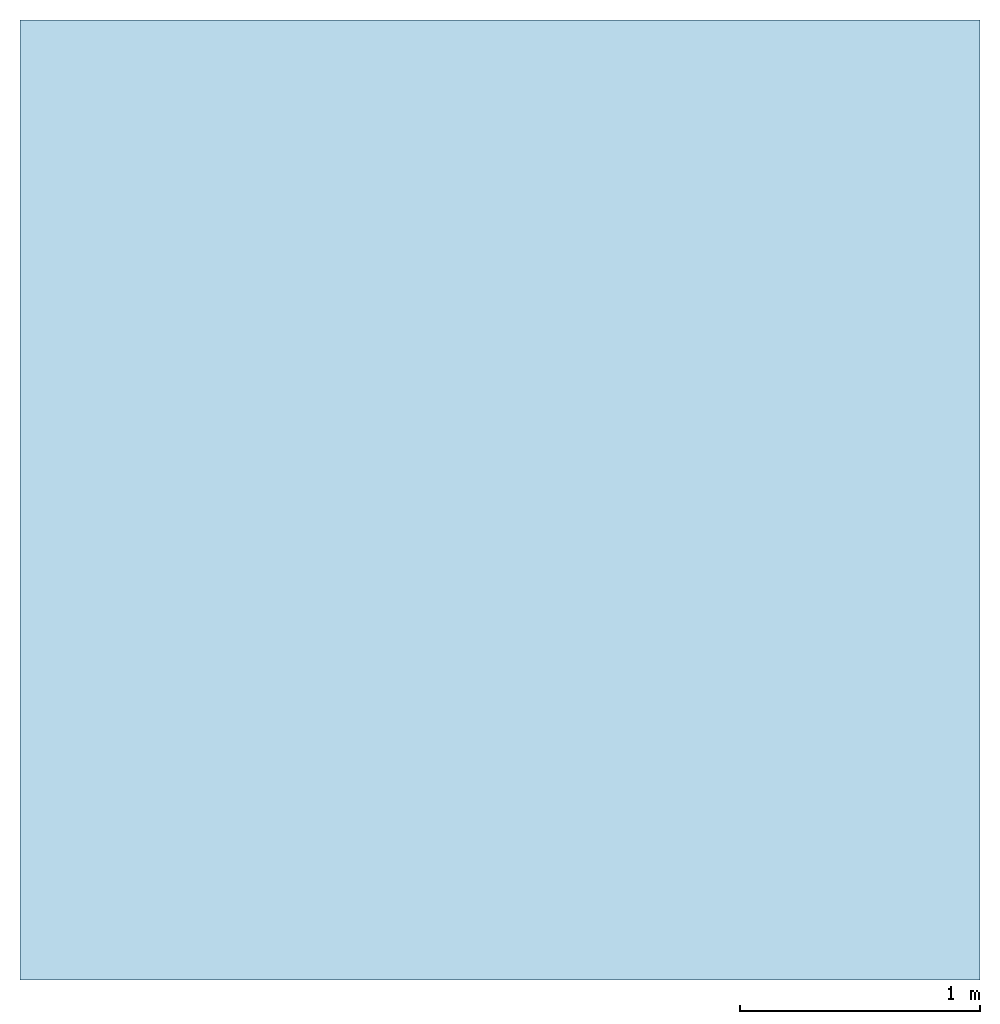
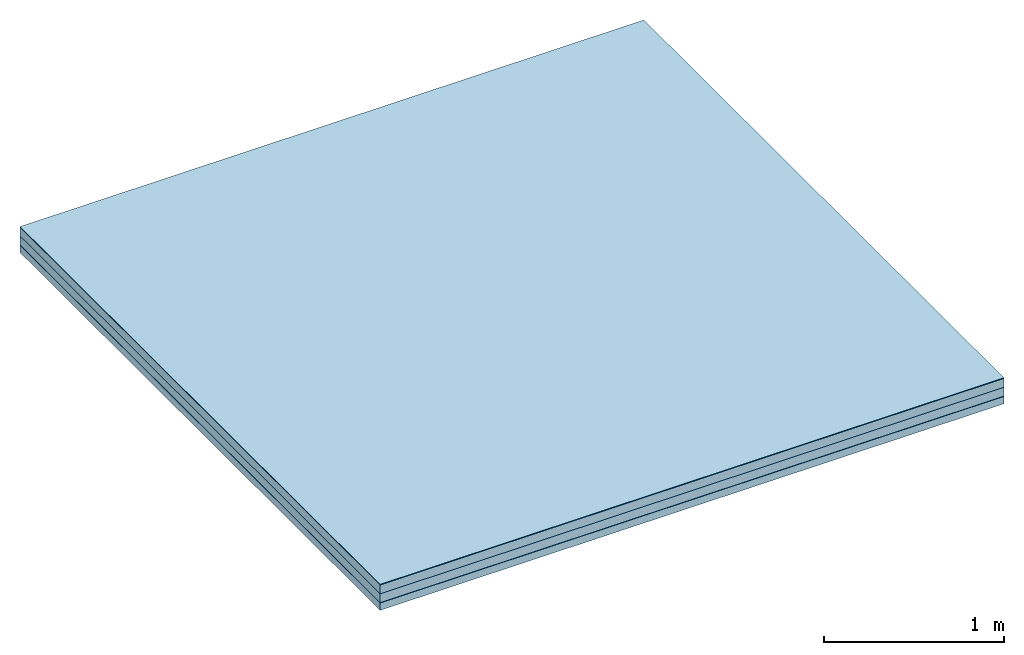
# One storey: 5 roofs, 1 slab.
"""IFC2X3 building model written with IfcOpenShell, lengths in millimetres."""

from ifc_helpers import new_model, entity, si_unit, converted_unit, derived_unit, direction, frame, frame_2d, origin, origin_2d_with_axis, place, context, subcontext, project, spatial, rectangle, extrude, material, layer, layer_set, layer_usage, element, save


model = new_model("IFC2X3")

# Units and contexts
model_context = context("Model", 3, precision=0.01, world=origin(), true_north=direction((6.12303176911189e-17, 1.0)))
body_context = subcontext(model_context, "Body", "Model", "MODEL_VIEW")
ifc_project = project(units=[si_unit("LENGTHUNIT", "METRE", prefix="MILLI"), si_unit("AREAUNIT", "SQUARE_METRE"), si_unit("VOLUMEUNIT", "CUBIC_METRE"), converted_unit("PLANEANGLEUNIT", "DEGREE", entity("IfcRatioMeasure", 0.0174532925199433), si_unit("PLANEANGLEUNIT", "RADIAN"), dimensions=[0, 0, 0, 0, 0, 0, 0]), si_unit("MASSUNIT", "GRAM", prefix="KILO"), derived_unit("MASSDENSITYUNIT", [(si_unit("MASSUNIT", "GRAM", prefix="KILO"), 1), (si_unit("LENGTHUNIT", "METRE"), -3)]), si_unit("TIMEUNIT", "SECOND"), si_unit("FREQUENCYUNIT", "HERTZ"), si_unit("THERMODYNAMICTEMPERATUREUNIT", "DEGREE_CELSIUS"), derived_unit("THERMALTRANSMITTANCEUNIT", [(si_unit("MASSUNIT", "GRAM", prefix="KILO"), 1), (si_unit("THERMODYNAMICTEMPERATUREUNIT", "KELVIN"), -1), (si_unit("TIMEUNIT", "SECOND"), -3)]), derived_unit("VOLUMETRICFLOWRATEUNIT", [(si_unit("LENGTHUNIT", "METRE"), 3), (si_unit("TIMEUNIT", "SECOND"), -1)]), si_unit("ELECTRICCURRENTUNIT", "AMPERE"), si_unit("ELECTRICVOLTAGEUNIT", "VOLT"), si_unit("POWERUNIT", "WATT"), si_unit("FORCEUNIT", "NEWTON", prefix="KILO"), si_unit("ILLUMINANCEUNIT", "LUX"), si_unit("LUMINOUSFLUXUNIT", "LUMEN"), si_unit("LUMINOUSINTENSITYUNIT", "CANDELA"), derived_unit("USERDEFINED", [(si_unit("MASSUNIT", "GRAM", prefix="KILO"), -1), (si_unit("LENGTHUNIT", "METRE"), -2), (si_unit("TIMEUNIT", "SECOND"), 3), (si_unit("LUMINOUSFLUXUNIT", "LUMEN"), 1)]), derived_unit("LINEARVELOCITYUNIT", [(si_unit("LENGTHUNIT", "METRE"), 1), (si_unit("TIMEUNIT", "SECOND"), -1)]), si_unit("PRESSUREUNIT", "PASCAL"), derived_unit("USERDEFINED", [(si_unit("LENGTHUNIT", "METRE"), -2), (si_unit("MASSUNIT", "GRAM", prefix="KILO"), 1), (si_unit("TIMEUNIT", "SECOND"), -2)])], contexts=[model_context])

# Site, building, storey
site_placement = place(None, origin())
site = spatial("IfcSite", under=ifc_project, at=site_placement, Name="Default", CompositionType="ELEMENT")
building_placement = place(site_placement, origin())
building = spatial("IfcBuilding", under=site, at=building_placement, CompositionType="ELEMENT")
storey_placement = place(building_placement, origin())
storey = spatial("IfcBuildingStorey", under=building, at=storey_placement, Name="Nivel 1", CompositionType="ELEMENT", Elevation=0.0)

# Slab
ifc_material_1 = material(Name="Formación de pendiente - Chapa grecada")
ifc_layer_1 = layer(ifc_material_1, 1.0)
ifc_layer_2 = layer(ifc_material_1, 49.0)
ifc_layer_set = layer_set([ifc_layer_1, ifc_layer_2], Name="Suelo:Chapa grecada")
ifc_layer_usage = layer_usage(ifc_layer_set, "AXIS3", "POSITIVE", 0.0)
slab_placement = place(storey_placement, origin())
element("IfcSlab", 1, at=slab_placement, inside=storey, material=ifc_layer_usage, Name="Suelo:Chapa grecada", ObjectType="Suelo:Chapa grecada", PredefinedType="FLOOR", context=body_context, shape_type="SweptSolid", body=[
    extrude(rectangle(XDim=4000.0, YDim=4000.0, at=frame_2d((0.0, -5.6843418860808e-13), x_axis=(1.0, 0.0))), frame((-4544.95271651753, -1086.84289171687, 0.0), z_axis=(0.0, 0.0, -1.0), x_axis=(0.0, 1.0, 0.0)), (0.0, 0.0, 1.0), 50.0),
])

# Roofs
ifc_material_2 = material(Name="IM_LaminaAsfaltica_Lamina_PolitaberNatureCombi50GBlanco")
roof_1_placement = place(storey_placement, origin())
element("IfcRoof", 2, at=roof_1_placement, inside=storey, material=ifc_material_2, Name="Pieza", context=body_context, shape_type="SweptSolid", body=[
    extrude(rectangle(XDim=4000.0, YDim=4000.0, at=origin_2d_with_axis()), frame((-4544.95271651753, -1086.84289171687, 124.0), z_axis=(0.0, 0.0, 1.0), x_axis=(0.0, 1.0, 0.0)), (0.0, 0.0, 1.0), 2.0),
])
ifc_material_3 = material(Name="IM_LaminaAsfaltica_Lamina_PolitaberVel30 (LBM 30-FV)")
roof_2_placement = place(storey_placement, origin())
element("IfcRoof", 3, at=roof_2_placement, inside=storey, material=ifc_material_3, Name="Pieza", context=body_context, shape_type="SweptSolid", body=[
    extrude(rectangle(XDim=4000.0, YDim=4000.0, at=origin_2d_with_axis()), frame((-4544.95271651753, -1086.84289171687, 122.0), z_axis=(0.0, 0.0, 1.0), x_axis=(0.0, 1.0, 0.0)), (0.0, 0.0, 1.0), 2.0),
])
ifc_material_4 = material(Name="AT_LanaRocaAltaDensidad_Panel_LarocS175")
roof_3_placement = place(storey_placement, origin())
element("IfcRoof", 4, at=roof_3_placement, inside=storey, material=ifc_material_4, Name="Pieza", context=body_context, shape_type="SweptSolid", body=[
    extrude(rectangle(XDim=4000.0, YDim=4000.0, at=origin_2d_with_axis()), frame((-4544.95271651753, -1086.84289171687, 62.0), z_axis=(0.0, 0.0, 1.0), x_axis=(0.0, 1.0, 0.0)), (0.0, 0.0, 1.0), 60.0),
])
ifc_material_5 = material(Name="AT_LanaRocaAltaDensidad_Panel_LarocN175")
roof_4_placement = place(storey_placement, origin())
element("IfcRoof", 5, at=roof_4_placement, inside=storey, material=ifc_material_5, Name="Pieza", context=body_context, shape_type="SweptSolid", body=[
    extrude(rectangle(XDim=4000.0, YDim=4000.0, at=origin_2d_with_axis()), frame((-4544.95271651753, -1086.84289171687, 2.0), z_axis=(0.0, 0.0, 1.0), x_axis=(0.0, 1.0, 0.0)), (0.0, 0.0, 1.0), 60.0),
])
ifc_material_6 = material(Name="IM_LaminaAsfaltica_Lamina_ChovaplastAlumBV30-E2")
roof_5_placement = place(storey_placement, origin())
element("IfcRoof", 6, at=roof_5_placement, inside=storey, material=ifc_material_6, Name="Pieza", context=body_context, shape_type="SweptSolid", body=[
    extrude(rectangle(XDim=4000.0, YDim=4000.0, at=origin_2d_with_axis()), frame((-4544.95271651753, -1086.84289171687, 0.0), z_axis=(0.0, 0.0, 1.0), x_axis=(0.0, 1.0, 0.0)), (0.0, 0.0, 1.0), 2.0),
])

save(model, "model.ifc")
